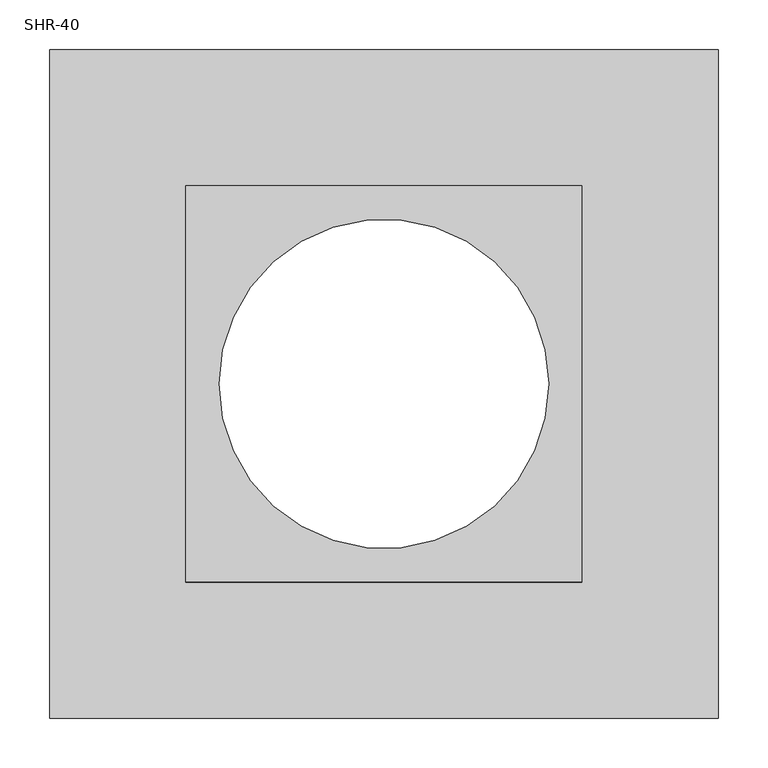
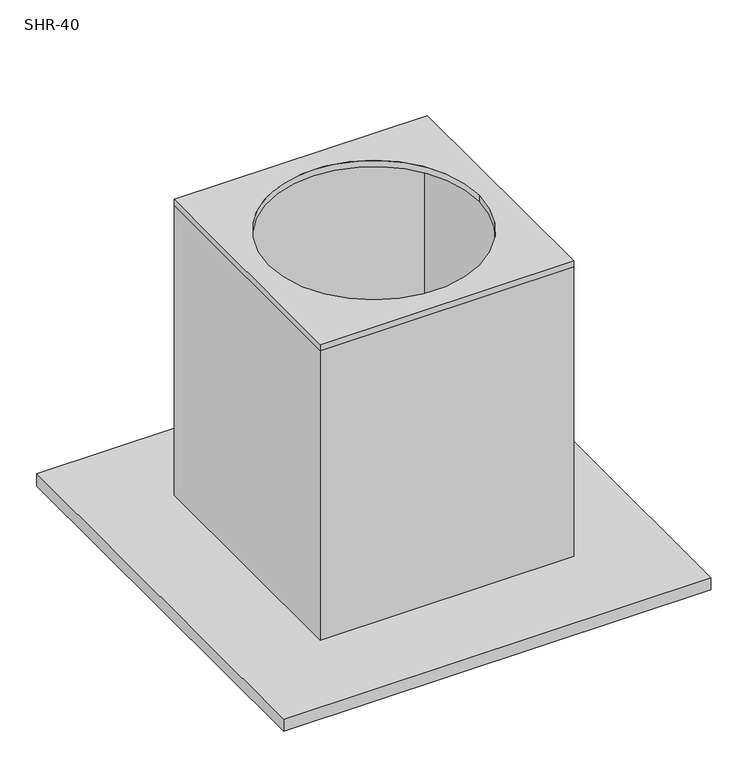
"""IFC4 building model written with IfcOpenShell, lengths in millimetres: damper geometry, СВ_Шумоглушитель_КрышныйПрямоугольный_30-100_SHR : SHR-40."""

from ifc_helpers import new_model, si_unit, point, frame, origin, origin_2d, place, context, project, spatial, polyline, circle_curve, trimmed, segment, composite_curve, outline, extrude, faceted_brep, source, transform, mapped, element, save


def shr_40_ebd12005(model_context):
    return source(origin(), model_context, "Body", "SolidModel", [
        extrude(outline(polyline([(198.5, 198.5), (198.5, -198.5), (-198.5, -198.5), (-198.5, 198.5), (198.5, 198.5)]), holes=[composite_curve([segment(trimmed(circle_curve(origin_2d(), 165.0), [point((-165.0, 0.0))], [point((165.0, 0.0))], True, "CARTESIAN"), True, "CONTINUOUS"), segment(trimmed(circle_curve(origin_2d(), 165.0), [point((165.0, 0.0))], [point((-165.0, 0.0))], True, "CARTESIAN"), True, "CONTINUOUS")], self_intersect=False)]), frame((0.0, 0.0, -10.0), z_axis=(0.0, 0.0, 1.0), x_axis=(1.0, 0.0, 0.0)), (0.0, 0.0, 1.0), 10.0),
        faceted_brep([(-335.0, -335.0, -490.0), (335.0, -335.0, -490.0), (335.0, 335.0, -490.0), (-335.0, 335.0, -490.0), (-198.5, 198.5, -490.0), (198.5, 198.5, -490.0), (198.5, -198.5, -490.0), (-198.5, -198.5, -490.0), (-335.0, -335.0, -510.0), (-335.0, 335.0, -510.0), (335.0, 335.0, -510.0), (335.0, -335.0, -510.0), (-188.5, -188.5, -510.0), (188.5, -188.5, -510.0), (188.5, 188.5, -510.0), (-188.5, 188.5, -510.0), (198.5, 198.5, -10.0), (-198.5, 198.5, -10.0), (-198.5, -198.5, -10.0), (198.5, -198.5, -10.0), (-188.5, -188.5, -10.0), (-188.5, 188.5, -10.0), (188.5, 188.5, -10.0), (188.5, -188.5, -10.0)], [[[0, 1, 2, 3], [4, 5, 6, 7]], [[8, 9, 10, 11], [12, 13, 14, 15]], [[1, 0, 8, 11]], [[2, 1, 11, 10]], [[3, 2, 10, 9]], [[0, 3, 9, 8]], [[16, 17, 18, 19], [20, 21, 22, 23]], [[20, 23, 13, 12]], [[23, 22, 14, 13]], [[22, 21, 15, 14]], [[21, 20, 12, 15]], [[17, 16, 5, 4]], [[18, 17, 4, 7]], [[19, 18, 7, 6]], [[16, 19, 6, 5]]]),
    ])


if __name__ == "__main__":
    model = new_model("IFC4")
    model_context = context("Model", 3, world=origin())
    ifc_project = project(units=[si_unit("LENGTHUNIT", "METRE", prefix="MILLI")], contexts=[model_context])
    site = spatial("IfcSite", under=ifc_project)
    building = spatial("IfcBuilding", under=site)
    placement = place(None, origin())
    shr_40_shape = shr_40_ebd12005(model_context)
    element("IfcDamper", 1, ObjectType="СВ_Шумоглушитель_КрышныйПрямоугольный_30-100_SHR : SHR-40", at=placement, inside=building, context=model_context, shape_type="MappedRepresentation", body=[
        mapped(shr_40_shape, transform((0.0, 0.0, 0.0), x_axis=(1.0, 0.0, 0.0), y_axis=(0.0, 1.0, 0.0), z_axis=(0.0, 0.0, 1.0))),
    ])
    save(model, "model.ifc")
